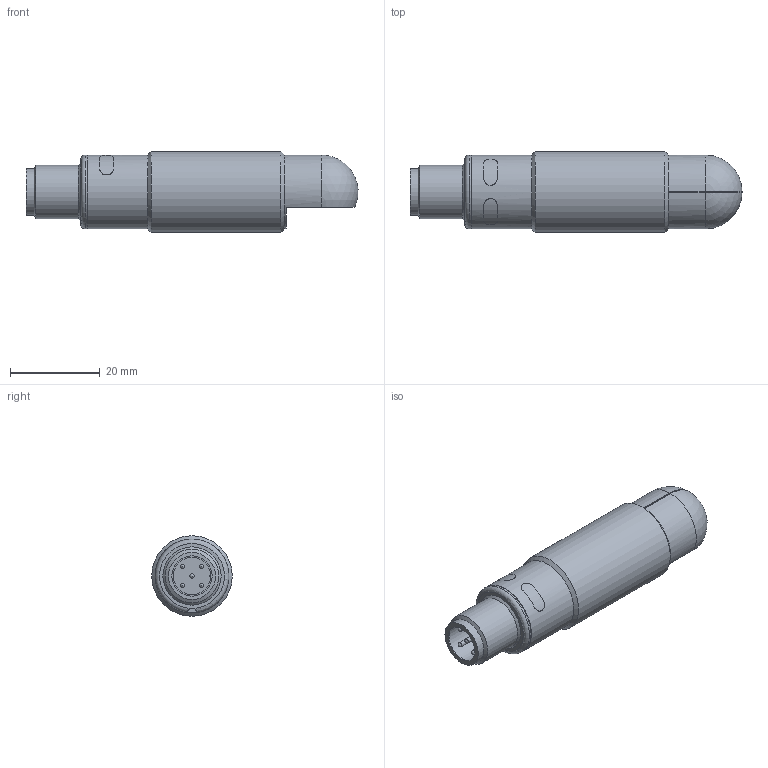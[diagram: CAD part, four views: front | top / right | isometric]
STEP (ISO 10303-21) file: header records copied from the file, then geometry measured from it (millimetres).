
FILE_DESCRIPTION(/* description */ ('Ipc-25 /CXX/M18','CAx-IF Rec.Pracs.---Representation and Presentation of Product Manufacturing Information (PMI)---3.8---2014-02-18'),/* implementation_level */ '2;1');
FILE_NAME(/* name */ 'J:\Projekte\Kunststoff-Blechteile\Zeichnungen\Bibliothek Inventor\3D Solids\lpc+\STP\lpc+35\lpc+35_WK_XX.stp',/* time_stamp */ '2018-12-12T11:54:52+01:00',/* author */ ('Oliver Liedtke'),/* organization */ (''),/* preprocessor_version */ 'ST-DEVELOPER v16.5',/* originating_system */ 'Autodesk Inventor 2017',/* authorisation */ '');
FILE_SCHEMA (('AP242_MANAGED_MODEL_BASED_3D_ENGINEERING_MIM_LF { 1 0 10303 442 1 1 4 }'));
Length unit declared in the file: millimetre
Products named in the file (1): lpc+35_WK_XX
Bounding box: 74.18 x 18 x 18 mm (x, y, z)
Volume: 14063 mm3; surface area: 4370.7 mm2
Topology: 1 solids, 1 shells, 57 faces, 132 edges, 86 vertices
Faces by surface type: cylinder 21, plane 20, sphere 7, cone 4, bspline 4, torus 1
Full cylindrical faces by diameter (mm): 1 x5, 8.3 x1, 9 x1, 9.6 x1, 10.5 x1, 12 x1, 14 x1, 16.3 x1, 16.5 x2, 18 x1
Entity records: 3035 total; most frequent: CARTESIAN_POINT 1815, DIRECTION 246, ORIENTED_EDGE 182, AXIS2_PLACEMENT_3D 111, EDGE_LOOP 91, EDGE_CURVE 91, VERTEX_POINT 70, FACE_OUTER_BOUND 57
